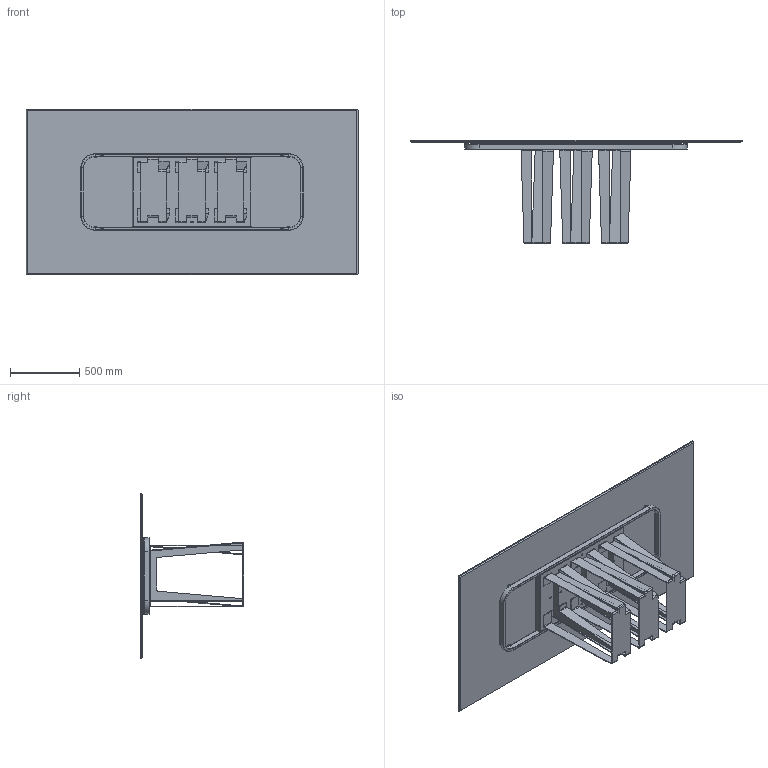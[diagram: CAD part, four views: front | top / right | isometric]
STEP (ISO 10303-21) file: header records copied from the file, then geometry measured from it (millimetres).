
FILE_DESCRIPTION (( 'STEP AP203' ), '1' );
FILE_NAME ('NA22C.STEP', '2024-08-07T14:42:55', ( '' ), ( '' ), 'SwSTEP 2.0', 'SolidWorks 2022', '' );
FILE_SCHEMA (( 'CONFIG_CONTROL_DESIGN' ));
Length unit declared in the file: millimetre
Products named in the file (8): NA22C; M8xXXmm_M8x20mm; K2XCMXX-00-Piani Rettangolari in ceramica_2390 x 1190; NAB000000-00-NARCISO BASE SING. GREZZA; TTAV01-01-TELAIO UNIVERSALE X TAVOLI 180 240cm; TTAV01_01-01-TELAIO UNIVERSALE X TAVOLI 180 240cm_Default<A macchina>; TTAV01_02-01-VASSOIO IRRIGIDIMENTO TELAIO UNIVERSALE; 434070-00-PIEDINO TPV GOMMA NERO D. 30x8max18
Assembly tree (17 placements, depth 3):
  NA22C
    K2XCMXX-00-Piani Rettangolari in ceramica_2390 x 1190
    434070-00-PIEDINO TPV GOMMA NERO D. 30x8max18  x4
    TTAV01-01-TELAIO UNIVERSALE X TAVOLI 180 240cm
      TTAV01_01-01-TELAIO UNIVERSALE X TAVOLI 180 240cm_Default<A macchina>
      TTAV01_02-01-VASSOIO IRRIGIDIMENTO TELAIO UNIVERSALE
    NAB000000-00-NARCISO BASE SING. GREZZA  x3
    M8xXXmm_M8x20mm  x6
Bounding box: 2390 x 746 x 1190 mm (x, y, z)
Volume: 56871449.6 mm3; surface area: 16365541.1 mm2
Topology: 31 solids, 31 shells, 1005 faces, 2463 edges, 1514 vertices
Faces by surface type: plane 551, cylinder 274, torus 72, cone 72, bspline 36
Entity records: 17834 total; most frequent: CARTESIAN_POINT 3255, DIRECTION 2864, ORIENTED_EDGE 2766, EDGE_CURVE 1383, AXIS2_PLACEMENT_3D 999, VERTEX_POINT 882, LINE 866, VECTOR 866
